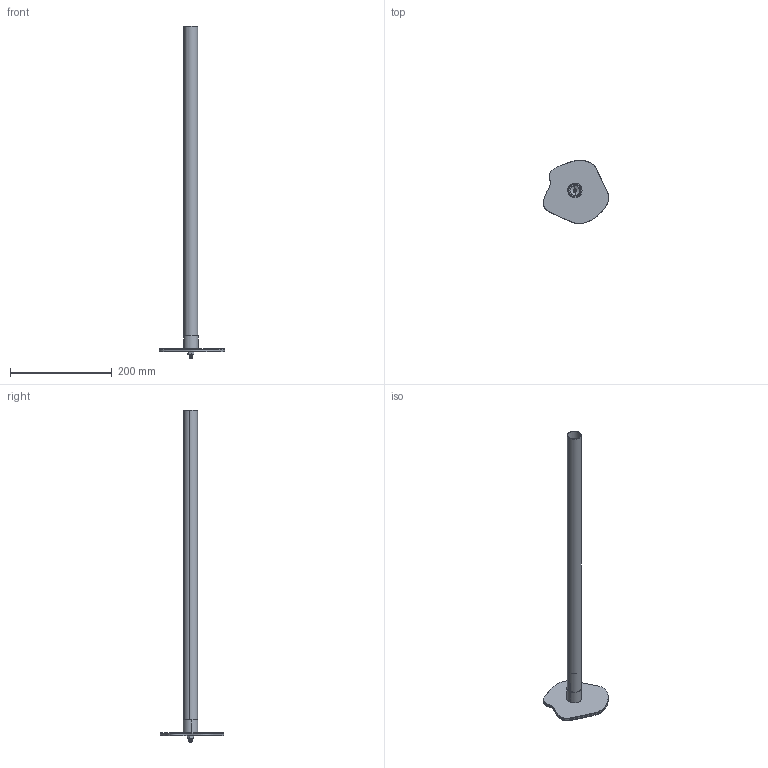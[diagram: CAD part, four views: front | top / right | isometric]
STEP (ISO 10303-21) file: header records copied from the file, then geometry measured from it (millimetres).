
FILE_DESCRIPTION (( 'STEP AP214' ), '1' );
FILE_NAME ('Threaded End to Perpendicular Surface Connection.STEP', '2013-08-19T14:18:23', ( 'ydmin' ), ( 'Microsoft' ), 'SwSTEP 2.0', 'SolidWorks 2013', '' );
FILE_SCHEMA (( 'AUTOMOTIVE_DESIGN' ));
Length unit declared in the file: inch
Products named in the file (5): 95479A111_95479A111; 6.000 Inch Tube; DRP-002-0518-00; Perpendicular Surface_Without Mounting Holes; Threaded End to Perpendicular Surface Connection
Assembly tree (4 placements, depth 2):
  Threaded End to Perpendicular Surface Connection
    Perpendicular Surface_Without Mounting Holes
    DRP-002-0518-00
    6.000 Inch Tube
    95479A111_95479A111
Bounding box: 128.66 x 124.76 x 653.22 mm (x, y, z)
Volume: 152794.1 mm3; surface area: 187916.3 mm2
Topology: 8 solids, 8 shells, 324 faces, 668 edges, 360 vertices
Faces by surface type: cone 138, cylinder 134, plane 34, bspline 14, sphere 2, torus 2
Entity records: 18734 total; most frequent: CARTESIAN_POINT 8959, DIRECTION 1359, ORIENTED_EDGE 1332, EDGE_CURVE 666, AXIS2_PLACEMENT_3D 528, VERTEX_POINT 360, EDGE_LOOP 338, ADVANCED_FACE 324
